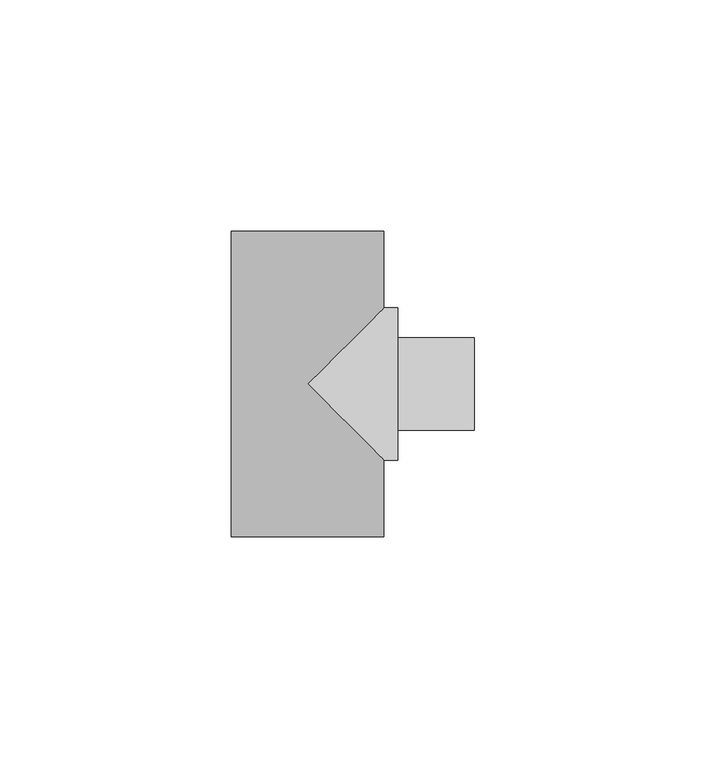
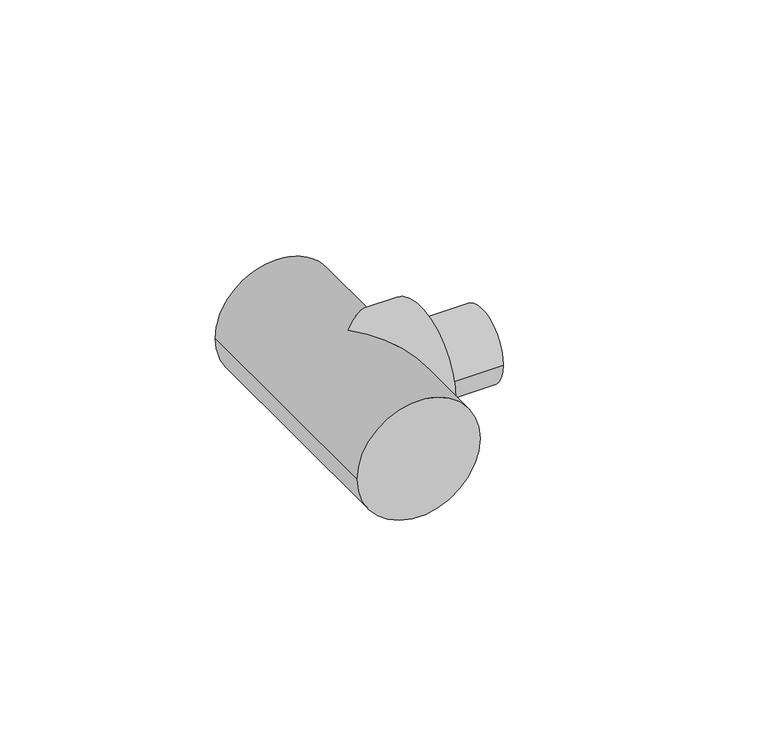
"""IFC4 building model written with IfcOpenShell, lengths in millimetres: pipe fitting geometry, 01051310 : Tê de redução a 90º F/M."""

from ifc_helpers import new_model, si_unit, point, frame, origin, origin_2d, place, context, project, spatial, circle_curve, ellipse_curve, trimmed, segment, composite_curve, outline, extrude, source, transform, mapped, element, save
from ifc_brep_helpers import plane_surface, cylinder_surface, advanced_brep


def pipe_fitting_5708e6f5(model_context):
    return source(origin(), model_context, "Body", "SolidModel", [
        advanced_brep(
        [(-16.5, 33.0, 0.0), (16.5, 33.0, 0.0), (-16.5, -33.0, 0.0), (16.5, -33.0, 0.0), (16.5, -16.5, 0.0), (0.0, 0.0, 16.5), (16.5, 16.5, 0.0), (0.0, 0.0, -16.5), (19.5, 16.5, 0.0), (19.5, -16.5, 0.0)],
        [
            (0, 1, circle_curve(frame((0.0, 33.0, 0.0), z_axis=(0.0, 1.0, 0.0), x_axis=(1.0, 0.0, 0.0)), 16.5)),
            (1, 0, circle_curve(frame((0.0, 33.0, 0.0), z_axis=(0.0, 1.0, 0.0), x_axis=(1.0, 0.0, 0.0)), 16.5)),
            (2, 3, circle_curve(frame((0.0, -33.0, 0.0), z_axis=(0.0, -1.0, 0.0), x_axis=(1.0, 0.0, 0.0)), 16.5)),
            (3, 2, circle_curve(frame((0.0, -33.0, 0.0), z_axis=(0.0, -1.0, 0.0), x_axis=(1.0, 0.0, 0.0)), 16.5)),
            (0, 2),
            (3, 4),
            (4, 5, ellipse_curve(frame((0.0, 0.0, 0.0), z_axis=(-0.7071067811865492, -0.7071067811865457, 0.0), x_axis=(-0.7071067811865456, 0.7071067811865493, 0.0)), 23.3345238, 16.5)),
            (5, 6, ellipse_curve(frame((0.0, 0.0, 0.0), z_axis=(-0.7071067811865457, 0.7071067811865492, 0.0), x_axis=(0.7071067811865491, 0.7071067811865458, 0.0)), 23.3345238, 16.5)),
            (6, 1),
            (6, 7, ellipse_curve(frame((0.0, 0.0, 0.0), z_axis=(-0.7071067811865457, 0.7071067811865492, 0.0), x_axis=(0.7071067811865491, 0.7071067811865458, 0.0)), 23.3345238, 16.5)),
            (7, 4, ellipse_curve(frame((0.0, 0.0, 0.0), z_axis=(-0.7071067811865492, -0.7071067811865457, 0.0), x_axis=(-0.7071067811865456, 0.7071067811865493, 0.0)), 23.3345238, 16.5)),
            (8, 9, circle_curve(frame((19.5, 0.0, 0.0), z_axis=(1.0, 0.0, 0.0), x_axis=(0.0, -1.0, 0.0)), 16.5)),
            (9, 8, circle_curve(frame((19.5, 0.0, 0.0), z_axis=(1.0, 0.0, 0.0), x_axis=(0.0, -1.0, 0.0)), 16.5)),
            (8, 6),
            (4, 9),
        ],
        [
            plane_surface(frame((0.0, 33.0, 0.0), z_axis=(0.0, 1.0, 0.0), x_axis=(0.0, 0.0, 1.0))),
            plane_surface(frame((0.0, -33.0, 0.0), z_axis=(0.0, -1.0, 0.0), x_axis=(0.0, 0.0, 1.0))),
            cylinder_surface(frame((0.0, 33.0, 0.0), z_axis=(0.0, 1.0, 0.0), x_axis=(1.0, 0.0, 0.0)), 16.5),
            plane_surface(frame((19.5, 0.0, 0.0), z_axis=(1.0, 0.0, 0.0), x_axis=(0.0, 0.0, 1.0))),
            cylinder_surface(frame((19.5, 0.0, 0.0), z_axis=(1.0, 0.0, 0.0), x_axis=(0.0, -1.0, 0.0)), 16.5),
        ],
        [
            (0, [[1, 2]]),
            (1, [[3, 4]]),
            (2, [[-1, 5, -4, 6, 7, 8, 9]]),
            (2, [[-2, -9, 10, 11, -6, -3, -5]]),
            (3, [[12, 13]]),
            (4, [[-12, 14, -8, -7, 15]]),
            (4, [[-13, -15, -11, -10, -14]]),
        ],
    ),
        extrude(outline(composite_curve([segment(trimmed(circle_curve(origin_2d(), 10.0), [point((10.0, 0.0))], [point((-10.0, 0.0))], False, "CARTESIAN"), True, "CONTINUOUS"), segment(trimmed(circle_curve(origin_2d(), 10.0), [point((-10.0, 0.0))], [point((10.0, 0.0))], False, "CARTESIAN"), True, "CONTINUOUS")], self_intersect=False)), frame((19.5, 0.0, 0.0), z_axis=(1.0, 0.0, 0.0), x_axis=(0.0, 1.0, 0.0)), (0.0, 0.0, 1.0), 16.5),
    ])


if __name__ == "__main__":
    model = new_model("IFC4")
    model_context = context("Model", 3, world=origin())
    ifc_project = project(units=[si_unit("LENGTHUNIT", "METRE", prefix="MILLI")], contexts=[model_context])
    site = spatial("IfcSite", under=ifc_project)
    building = spatial("IfcBuilding", under=site)
    placement = place(None, origin())
    pipe_fitting_shape = pipe_fitting_5708e6f5(model_context)
    element("IfcPipeFitting", 1, ObjectType="01051310 : Tê de redução a 90º F/M", at=placement, inside=building, context=model_context, shape_type="MappedRepresentation", body=[
        mapped(pipe_fitting_shape, transform((0.0, 0.0, 0.0), x_axis=(1.0, 0.0, 0.0), y_axis=(0.0, 1.0, 0.0), z_axis=(0.0, 0.0, 1.0))),
    ])
    save(model, "model.ifc")
